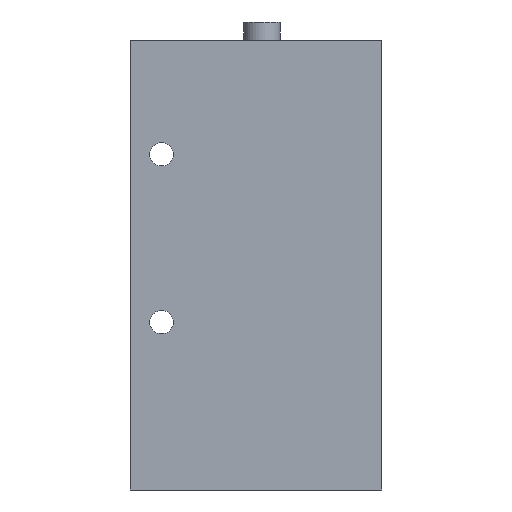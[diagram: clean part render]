
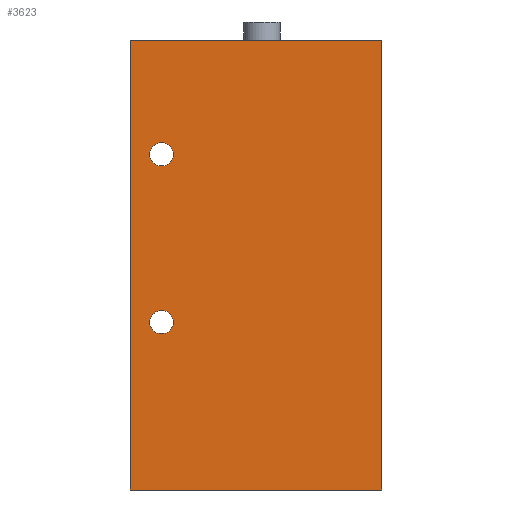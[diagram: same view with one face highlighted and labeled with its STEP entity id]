
A CAD part, front view. The second image highlights one B-rep face of the part: STEP entity #3623.
In plain terms, the highlighted planar face has unit normal (0, -1, 0).
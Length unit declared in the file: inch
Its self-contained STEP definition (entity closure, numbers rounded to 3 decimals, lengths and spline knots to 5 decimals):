
#177=CIRCLE('',#3835,0.14);
#179=CIRCLE('',#3838,0.14);
#393=FACE_BOUND('',#989,.T.);
#394=FACE_BOUND('',#990,.T.);
#395=FACE_BOUND('',#991,.T.);
#989=EDGE_LOOP('',(#2958));
#990=EDGE_LOOP('',(#2959));
#991=EDGE_LOOP('',(#2960,#2961,#2962,#2963));
#1329=LINE('',#6036,#1553);
#1331=LINE('',#6129,#1555);
#1335=LINE('',#6364,#1559);
#1337=LINE('',#6386,#1561);
#1553=VECTOR('',#4417,5.3498);
#1555=VECTOR('',#4489,5.3498);
#1559=VECTOR('',#4571,3.);
#1561=VECTOR('',#4599,3.);
#1746=VERTEX_POINT('',#6029);
#1749=VERTEX_POINT('',#6034);
#1770=VERTEX_POINT('',#6126);
#1771=VERTEX_POINT('',#6128);
#1782=VERTEX_POINT('',#6288);
#1784=VERTEX_POINT('',#6293);
#2154=EDGE_CURVE('',#1749,#1746,#1329,.T.);
#2175=EDGE_CURVE('',#1771,#1770,#1331,.T.);
#2189=EDGE_CURVE('',#1782,#1782,#177,.T.);
#2191=EDGE_CURVE('',#1784,#1784,#179,.T.);
#2205=EDGE_CURVE('',#1771,#1749,#1335,.T.);
#2214=EDGE_CURVE('',#1770,#1746,#1337,.T.);
#2958=ORIENTED_EDGE('',*,*,#2189,.T.);
#2959=ORIENTED_EDGE('',*,*,#2191,.T.);
#2960=ORIENTED_EDGE('',*,*,#2214,.T.);
#2961=ORIENTED_EDGE('',*,*,#2154,.F.);
#2962=ORIENTED_EDGE('',*,*,#2205,.F.);
#2963=ORIENTED_EDGE('',*,*,#2175,.T.);
#3280=PLANE('',#3906);
#3623=ADVANCED_FACE('',(#393,#394,#395),#3280,.T.);
#3835=AXIS2_PLACEMENT_3D('',#6289,#4518,#4519);
#3838=AXIS2_PLACEMENT_3D('',#6294,#4524,#4525);
#3906=AXIS2_PLACEMENT_3D('',#6433,#4664,#4665);
#4417=DIRECTION('',(0.,0.,1.));
#4489=DIRECTION('',(0.,0.,1.));
#4518=DIRECTION('center_axis',(0.,1.,0.));
#4519=DIRECTION('ref_axis',(1.,0.,0.));
#4524=DIRECTION('center_axis',(0.,1.,0.));
#4525=DIRECTION('ref_axis',(1.,0.,0.));
#4571=DIRECTION('',(-1.,0.,0.));
#4599=DIRECTION('',(-1.,0.,0.));
#4664=DIRECTION('center_axis',(0.,-1.,0.));
#4665=DIRECTION('ref_axis',(0.,0.,-1.));
#6029=CARTESIAN_POINT('',(-1.57,-1.,5.3498));
#6034=CARTESIAN_POINT('',(-1.57,-1.,0.));
#6036=CARTESIAN_POINT('',(-1.57,-1.,0.));
#6126=CARTESIAN_POINT('',(1.43,-1.,5.3498));
#6128=CARTESIAN_POINT('',(1.43,-1.,0.));
#6129=CARTESIAN_POINT('',(1.43,-1.,0.));
#6288=CARTESIAN_POINT('',(-1.055,-1.,4.));
#6289=CARTESIAN_POINT('Origin',(-1.195,-1.,4.));
#6293=CARTESIAN_POINT('',(-1.055,-1.,2.));
#6294=CARTESIAN_POINT('Origin',(-1.195,-1.,2.));
#6364=CARTESIAN_POINT('',(1.43,-1.,0.));
#6386=CARTESIAN_POINT('',(1.43,-1.,5.3498));
#6433=CARTESIAN_POINT('Origin',(1.43,-1.,0.));
